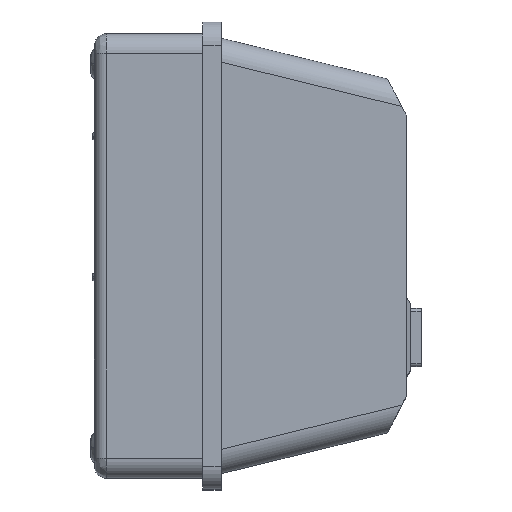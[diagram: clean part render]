
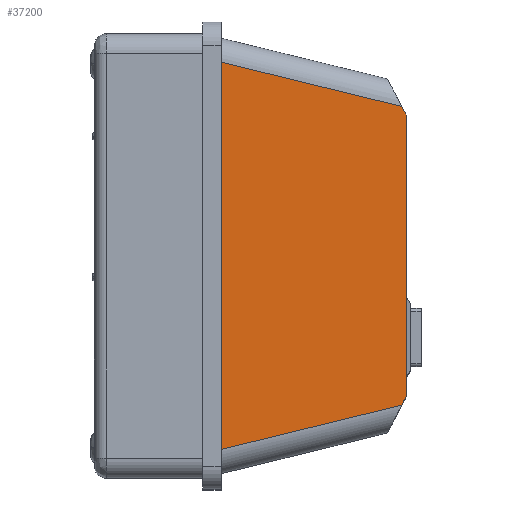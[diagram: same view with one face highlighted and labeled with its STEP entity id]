
A CAD part, top view. The second image highlights one B-rep face of the part: STEP entity #37200.
In plain terms, the highlighted planar face has unit normal (0, 0, 1).
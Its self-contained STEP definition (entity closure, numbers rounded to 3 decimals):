
#35753 = PLANE('',#35754);
#35754 = AXIS2_PLACEMENT_3D('',#35755,#35756,#35757);
#35755 = CARTESIAN_POINT('',(134.,60.5,53.5));
#35756 = DIRECTION('',(-1.,0.,0.));
#35757 = DIRECTION('',(0.,-1.,0.));
#36575 = VERTEX_POINT('',#36576);
#36576 = CARTESIAN_POINT('',(132.082,64.216,53.5));
#36586 = PLANE('',#36587);
#36587 = AXIS2_PLACEMENT_3D('',#36588,#36589,#36590);
#36588 = CARTESIAN_POINT('',(126.,76.,53.5));
#36589 = DIRECTION('',(-0.889,-0.459,0.));
#36590 = DIRECTION('',(0.459,-0.889,0.));
#36599 = CYLINDRICAL_SURFACE('',#36600,10.);
#36600 = AXIS2_PLACEMENT_3D('',#36601,#36602,#36603);
#36601 = CARTESIAN_POINT('',(22.294,91.087,43.5));
#36602 = DIRECTION('',(-0.971,0.238,0.));
#36603 = DIRECTION('',(-0.238,-0.971,0.));
#36633 = EDGE_CURVE('',#36575,#36634,#36636,.T.);
#36634 = VERTEX_POINT('',#36635);
#36635 = CARTESIAN_POINT('',(134.,60.5,53.5));
#36636 = SURFACE_CURVE('',#36637,(#36641,#36648),.PCURVE_S1.);
#36637 = LINE('',#36638,#36639);
#36638 = CARTESIAN_POINT('',(132.082,64.216,53.5));
#36639 = VECTOR('',#36640,1.);
#36640 = DIRECTION('',(0.459,-0.889,0.));
#36641 = PCURVE('',#36586,#36642);
#36642 = DEFINITIONAL_REPRESENTATION('',(#36643),#36647);
#36643 = LINE('',#36644,#36645);
#36644 = CARTESIAN_POINT('',(13.261,0.));
#36645 = VECTOR('',#36646,1.);
#36646 = DIRECTION('',(1.,0.));
#36647 = ( GEOMETRIC_REPRESENTATION_CONTEXT(2) 
PARAMETRIC_REPRESENTATION_CONTEXT() REPRESENTATION_CONTEXT('2D SPACE',''
  ) );
#36648 = PCURVE('',#36649,#36654);
#36649 = PLANE('',#36650);
#36650 = AXIS2_PLACEMENT_3D('',#36651,#36652,#36653);
#36651 = CARTESIAN_POINT('',(0.,0.,53.5));
#36652 = DIRECTION('',(0.,0.,-1.));
#36653 = DIRECTION('',(-1.,0.,-0.));
#36654 = DEFINITIONAL_REPRESENTATION('',(#36655),#36659);
#36655 = LINE('',#36656,#36657);
#36656 = CARTESIAN_POINT('',(-132.082,64.216));
#36657 = VECTOR('',#36658,1.);
#36658 = DIRECTION('',(-0.459,-0.889));
#36659 = ( GEOMETRIC_REPRESENTATION_CONTEXT(2) 
PARAMETRIC_REPRESENTATION_CONTEXT() REPRESENTATION_CONTEXT('2D SPACE',''
  ) );
#36799 = EDGE_CURVE('',#36634,#36800,#36802,.T.);
#36800 = VERTEX_POINT('',#36801);
#36801 = CARTESIAN_POINT('',(134.,-60.5,53.5));
#36802 = SURFACE_CURVE('',#36803,(#36807,#36814),.PCURVE_S1.);
#36803 = LINE('',#36804,#36805);
#36804 = CARTESIAN_POINT('',(134.,0.,53.5));
#36805 = VECTOR('',#36806,1.);
#36806 = DIRECTION('',(-0.,-1.,-0.));
#36807 = PCURVE('',#35753,#36808);
#36808 = DEFINITIONAL_REPRESENTATION('',(#36809),#36813);
#36809 = LINE('',#36810,#36811);
#36810 = CARTESIAN_POINT('',(60.5,0.));
#36811 = VECTOR('',#36812,1.);
#36812 = DIRECTION('',(1.,0.));
#36813 = ( GEOMETRIC_REPRESENTATION_CONTEXT(2) 
PARAMETRIC_REPRESENTATION_CONTEXT() REPRESENTATION_CONTEXT('2D SPACE',''
  ) );
#36814 = PCURVE('',#36649,#36815);
#36815 = DEFINITIONAL_REPRESENTATION('',(#36816),#36820);
#36816 = LINE('',#36817,#36818);
#36817 = CARTESIAN_POINT('',(-134.,0.));
#36818 = VECTOR('',#36819,1.);
#36819 = DIRECTION('',(0.,-1.));
#36820 = ( GEOMETRIC_REPRESENTATION_CONTEXT(2) 
PARAMETRIC_REPRESENTATION_CONTEXT() REPRESENTATION_CONTEXT('2D SPACE',''
  ) );
#36838 = PLANE('',#36839);
#36839 = AXIS2_PLACEMENT_3D('',#36840,#36841,#36842);
#36840 = CARTESIAN_POINT('',(126.,-76.,53.5));
#36841 = DIRECTION('',(-0.889,0.459,0.));
#36842 = DIRECTION('',(-0.459,-0.889,0.));
#36877 = VERTEX_POINT('',#36878);
#36878 = CARTESIAN_POINT('',(132.082,-64.216,53.5));
#36894 = CYLINDRICAL_SURFACE('',#36895,10.);
#36895 = AXIS2_PLACEMENT_3D('',#36896,#36897,#36898);
#36896 = CARTESIAN_POINT('',(22.294,-91.087,43.5));
#36897 = DIRECTION('',(0.971,0.238,0.));
#36898 = DIRECTION('',(-0.238,0.971,0.));
#37025 = EDGE_CURVE('',#36800,#36877,#37026,.T.);
#37026 = SURFACE_CURVE('',#37027,(#37031,#37038),.PCURVE_S1.);
#37027 = LINE('',#37028,#37029);
#37028 = CARTESIAN_POINT('',(134.,-60.5,53.5));
#37029 = VECTOR('',#37030,1.);
#37030 = DIRECTION('',(-0.459,-0.889,0.));
#37031 = PCURVE('',#36838,#37032);
#37032 = DEFINITIONAL_REPRESENTATION('',(#37033),#37037);
#37033 = LINE('',#37034,#37035);
#37034 = CARTESIAN_POINT('',(-17.443,0.));
#37035 = VECTOR('',#37036,1.);
#37036 = DIRECTION('',(1.,0.));
#37037 = ( GEOMETRIC_REPRESENTATION_CONTEXT(2) 
PARAMETRIC_REPRESENTATION_CONTEXT() REPRESENTATION_CONTEXT('2D SPACE',''
  ) );
#37038 = PCURVE('',#36649,#37039);
#37039 = DEFINITIONAL_REPRESENTATION('',(#37040),#37044);
#37040 = LINE('',#37041,#37042);
#37041 = CARTESIAN_POINT('',(-134.,-60.5));
#37042 = VECTOR('',#37043,1.);
#37043 = DIRECTION('',(0.459,-0.889));
#37044 = ( GEOMETRIC_REPRESENTATION_CONTEXT(2) 
PARAMETRIC_REPRESENTATION_CONTEXT() REPRESENTATION_CONTEXT('2D SPACE',''
  ) );
#37094 = PLANE('',#37095);
#37095 = AXIS2_PLACEMENT_3D('',#37096,#37097,#37098);
#37096 = CARTESIAN_POINT('',(54.5,-90.5,-49.75));
#37097 = DIRECTION('',(1.,-0.,0.));
#37098 = DIRECTION('',(0.,0.,-1.));
#37132 = EDGE_CURVE('',#36877,#37133,#37135,.T.);
#37133 = VERTEX_POINT('',#37134);
#37134 = CARTESIAN_POINT('',(54.5,-83.205,53.5));
#37135 = SURFACE_CURVE('',#37136,(#37140,#37147),.PCURVE_S1.);
#37136 = LINE('',#37137,#37138);
#37137 = CARTESIAN_POINT('',(132.082,-64.216,53.5));
#37138 = VECTOR('',#37139,1.);
#37139 = DIRECTION('',(-0.971,-0.238,0.));
#37140 = PCURVE('',#36894,#37141);
#37141 = DEFINITIONAL_REPRESENTATION('',(#37142),#37146);
#37142 = LINE('',#37143,#37144);
#37143 = CARTESIAN_POINT('',(1.571,113.028));
#37144 = VECTOR('',#37145,1.);
#37145 = DIRECTION('',(0.,-1.));
#37146 = ( GEOMETRIC_REPRESENTATION_CONTEXT(2) 
PARAMETRIC_REPRESENTATION_CONTEXT() REPRESENTATION_CONTEXT('2D SPACE',''
  ) );
#37147 = PCURVE('',#36649,#37148);
#37148 = DEFINITIONAL_REPRESENTATION('',(#37149),#37153);
#37149 = LINE('',#37150,#37151);
#37150 = CARTESIAN_POINT('',(-132.082,-64.216));
#37151 = VECTOR('',#37152,1.);
#37152 = DIRECTION('',(0.971,-0.238));
#37153 = ( GEOMETRIC_REPRESENTATION_CONTEXT(2) 
PARAMETRIC_REPRESENTATION_CONTEXT() REPRESENTATION_CONTEXT('2D SPACE',''
  ) );
#37200 = ADVANCED_FACE('',(#37201),#36649,.F.);
#37201 = FACE_BOUND('',#37202,.T.);
#37202 = EDGE_LOOP('',(#37203,#37226,#37247,#37248,#37249,#37250));
#37203 = ORIENTED_EDGE('',*,*,#37204,.F.);
#37204 = EDGE_CURVE('',#37205,#36575,#37207,.T.);
#37205 = VERTEX_POINT('',#37206);
#37206 = CARTESIAN_POINT('',(54.5,83.205,53.5));
#37207 = SURFACE_CURVE('',#37208,(#37212,#37219),.PCURVE_S1.);
#37208 = LINE('',#37209,#37210);
#37209 = CARTESIAN_POINT('',(22.294,91.087,53.5));
#37210 = VECTOR('',#37211,1.);
#37211 = DIRECTION('',(0.971,-0.238,-0.));
#37212 = PCURVE('',#36649,#37213);
#37213 = DEFINITIONAL_REPRESENTATION('',(#37214),#37218);
#37214 = LINE('',#37215,#37216);
#37215 = CARTESIAN_POINT('',(-22.294,91.087));
#37216 = VECTOR('',#37217,1.);
#37217 = DIRECTION('',(-0.971,-0.238));
#37218 = ( GEOMETRIC_REPRESENTATION_CONTEXT(2) 
PARAMETRIC_REPRESENTATION_CONTEXT() REPRESENTATION_CONTEXT('2D SPACE',''
  ) );
#37219 = PCURVE('',#36599,#37220);
#37220 = DEFINITIONAL_REPRESENTATION('',(#37221),#37225);
#37221 = LINE('',#37222,#37223);
#37222 = CARTESIAN_POINT('',(1.571,0.));
#37223 = VECTOR('',#37224,1.);
#37224 = DIRECTION('',(0.,-1.));
#37225 = ( GEOMETRIC_REPRESENTATION_CONTEXT(2) 
PARAMETRIC_REPRESENTATION_CONTEXT() REPRESENTATION_CONTEXT('2D SPACE',''
  ) );
#37226 = ORIENTED_EDGE('',*,*,#37227,.F.);
#37227 = EDGE_CURVE('',#37133,#37205,#37228,.T.);
#37228 = SURFACE_CURVE('',#37229,(#37233,#37240),.PCURVE_S1.);
#37229 = LINE('',#37230,#37231);
#37230 = CARTESIAN_POINT('',(54.5,-90.5,53.5));
#37231 = VECTOR('',#37232,1.);
#37232 = DIRECTION('',(0.,1.,0.));
#37233 = PCURVE('',#36649,#37234);
#37234 = DEFINITIONAL_REPRESENTATION('',(#37235),#37239);
#37235 = LINE('',#37236,#37237);
#37236 = CARTESIAN_POINT('',(-54.5,-90.5));
#37237 = VECTOR('',#37238,1.);
#37238 = DIRECTION('',(0.,1.));
#37239 = ( GEOMETRIC_REPRESENTATION_CONTEXT(2) 
PARAMETRIC_REPRESENTATION_CONTEXT() REPRESENTATION_CONTEXT('2D SPACE',''
  ) );
#37240 = PCURVE('',#37094,#37241);
#37241 = DEFINITIONAL_REPRESENTATION('',(#37242),#37246);
#37242 = LINE('',#37243,#37244);
#37243 = CARTESIAN_POINT('',(-103.25,0.));
#37244 = VECTOR('',#37245,1.);
#37245 = DIRECTION('',(0.,1.));
#37246 = ( GEOMETRIC_REPRESENTATION_CONTEXT(2) 
PARAMETRIC_REPRESENTATION_CONTEXT() REPRESENTATION_CONTEXT('2D SPACE',''
  ) );
#37247 = ORIENTED_EDGE('',*,*,#37132,.F.);
#37248 = ORIENTED_EDGE('',*,*,#37025,.F.);
#37249 = ORIENTED_EDGE('',*,*,#36799,.F.);
#37250 = ORIENTED_EDGE('',*,*,#36633,.F.);
